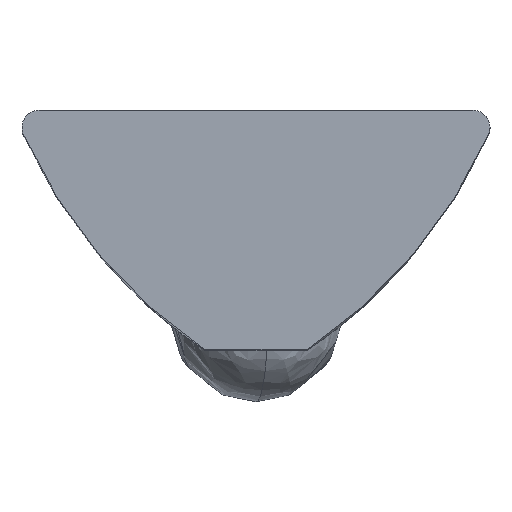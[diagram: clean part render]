
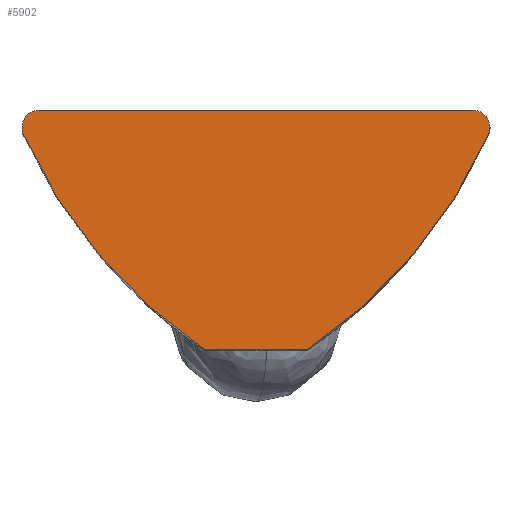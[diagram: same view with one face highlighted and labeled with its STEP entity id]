
A CAD part, top view. The second image highlights one B-rep face of the part: STEP entity #5902.
In plain terms, the highlighted planar face has unit normal (0, 0, 1).
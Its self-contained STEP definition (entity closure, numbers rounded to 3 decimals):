
#11 = CARTESIAN_POINT ( 'NONE',  ( -48.003, 11.241, 34.168 ) ) ;
#33 = VERTEX_POINT ( 'NONE', #7083 ) ;
#182 = EDGE_CURVE ( 'NONE', #33, #467, #4565, .T. ) ;
#265 = VERTEX_POINT ( 'NONE', #4755 ) ;
#306 = CIRCLE ( 'NONE', #7423, 0.5 ) ;
#343 = CARTESIAN_POINT ( 'NONE',  ( -47.503, 11.241, 34.168 ) ) ;
#467 = VERTEX_POINT ( 'NONE', #343 ) ;
#613 = CARTESIAN_POINT ( 'NONE',  ( -48.003, 11.241, 34.168 ) ) ;
#710 = DIRECTION ( 'NONE',  ( 0., 0., -1. ) ) ;
#775 = CARTESIAN_POINT ( 'NONE',  ( -60.703, 11.241, 34.168 ) ) ;
#1060 = AXIS2_PLACEMENT_3D ( 'NONE', #11, #1302, #4236 ) ;
#1234 = EDGE_CURVE ( 'NONE', #3792, #7433, #5805, .T. ) ;
#1302 = DIRECTION ( 'NONE',  ( 0., 0., -1. ) ) ;
#1521 = EDGE_LOOP ( 'NONE', ( #2031, #4750, #7584, #3281, #7359, #3777, #7300 ) ) ;
#1762 = CARTESIAN_POINT ( 'NONE',  ( -52.853, 4.741, 34.168 ) ) ;
#1789 = AXIS2_PLACEMENT_3D ( 'NONE', #6724, #710, #2547 ) ;
#1918 = VERTEX_POINT ( 'NONE', #3280 ) ;
#1984 = DIRECTION ( 'NONE',  ( 1., 0., 0. ) ) ;
#2031 = ORIENTED_EDGE ( 'NONE', *, *, #182, .F. ) ;
#2141 = DIRECTION ( 'NONE',  ( 1., 0., 0. ) ) ;
#2547 = DIRECTION ( 'NONE',  ( 1., 0., 0. ) ) ;
#2573 = CARTESIAN_POINT ( 'NONE',  ( -48.003, 4.741, 34.168 ) ) ;
#2898 = DIRECTION ( 'NONE',  ( 0., 0., -1. ) ) ;
#3032 = EDGE_CURVE ( 'NONE', #33, #7558, #4304, .T. ) ;
#3163 = DIRECTION ( 'NONE',  ( 0., 0., -1. ) ) ;
#3179 = CIRCLE ( 'NONE', #1789, 15. ) ;
#3280 = CARTESIAN_POINT ( 'NONE',  ( -61.159, 11.036, 34.168 ) ) ;
#3281 = ORIENTED_EDGE ( 'NONE', *, *, #5075, .F. ) ;
#3646 = VECTOR ( 'NONE', #7343, 1000. ) ;
#3777 = ORIENTED_EDGE ( 'NONE', *, *, #1234, .F. ) ;
#3792 = VERTEX_POINT ( 'NONE', #6719 ) ;
#4011 = EDGE_CURVE ( 'NONE', #467, #3792, #306, .T. ) ;
#4115 = PLANE ( 'NONE',  #6822 ) ;
#4148 = DIRECTION ( 'NONE',  ( -1., 0., 0. ) ) ;
#4236 = DIRECTION ( 'NONE',  ( 1., 0., 0. ) ) ;
#4304 = LINE ( 'NONE', #4780, #5933 ) ;
#4565 = CIRCLE ( 'NONE', #1060, 0.5 ) ;
#4703 = FACE_OUTER_BOUND ( 'NONE', #1521, .T. ) ;
#4721 = CARTESIAN_POINT ( 'NONE',  ( -60.703, 11.741, 34.168 ) ) ;
#4750 = ORIENTED_EDGE ( 'NONE', *, *, #3032, .T. ) ;
#4755 = CARTESIAN_POINT ( 'NONE',  ( -55.853, 4.741, 34.168 ) ) ;
#4780 = CARTESIAN_POINT ( 'NONE',  ( -48.003, 11.741, 34.168 ) ) ;
#4782 = AXIS2_PLACEMENT_3D ( 'NONE', #775, #3163, #1984 ) ;
#4809 = LINE ( 'NONE', #2573, #3646 ) ;
#5075 = EDGE_CURVE ( 'NONE', #265, #1918, #3179, .T. ) ;
#5805 = CIRCLE ( 'NONE', #6800, 15. ) ;
#5818 = CARTESIAN_POINT ( 'NONE',  ( -48.003, 11.241, 34.168 ) ) ;
#5881 = DIRECTION ( 'NONE',  ( 0., 0., -1. ) ) ;
#5902 = ADVANCED_FACE ( 'NONE', ( #4703 ), #4115, .F. ) ;
#5933 = VECTOR ( 'NONE', #4148, 1000. ) ;
#6039 = EDGE_CURVE ( 'NONE', #1918, #7558, #7183, .T. ) ;
#6138 = EDGE_CURVE ( 'NONE', #7433, #265, #4809, .T. ) ;
#6719 = CARTESIAN_POINT ( 'NONE',  ( -47.547, 11.036, 34.168 ) ) ;
#6724 = CARTESIAN_POINT ( 'NONE',  ( -47.477, 17.185, 34.168 ) ) ;
#6800 = AXIS2_PLACEMENT_3D ( 'NONE', #7044, #5881, #7684 ) ;
#6822 = AXIS2_PLACEMENT_3D ( 'NONE', #613, #2898, #7674 ) ;
#7044 = CARTESIAN_POINT ( 'NONE',  ( -61.229, 17.185, 34.168 ) ) ;
#7083 = CARTESIAN_POINT ( 'NONE',  ( -48.003, 11.741, 34.168 ) ) ;
#7183 = CIRCLE ( 'NONE', #4782, 0.5 ) ;
#7300 = ORIENTED_EDGE ( 'NONE', *, *, #4011, .F. ) ;
#7343 = DIRECTION ( 'NONE',  ( -1., 0., 0. ) ) ;
#7359 = ORIENTED_EDGE ( 'NONE', *, *, #6138, .F. ) ;
#7423 = AXIS2_PLACEMENT_3D ( 'NONE', #5818, #7504, #2141 ) ;
#7433 = VERTEX_POINT ( 'NONE', #1762 ) ;
#7504 = DIRECTION ( 'NONE',  ( 0., 0., -1. ) ) ;
#7558 = VERTEX_POINT ( 'NONE', #4721 ) ;
#7584 = ORIENTED_EDGE ( 'NONE', *, *, #6039, .F. ) ;
#7674 = DIRECTION ( 'NONE',  ( -1., 0., 0. ) ) ;
#7684 = DIRECTION ( 'NONE',  ( 1., 0., 0. ) ) ;
